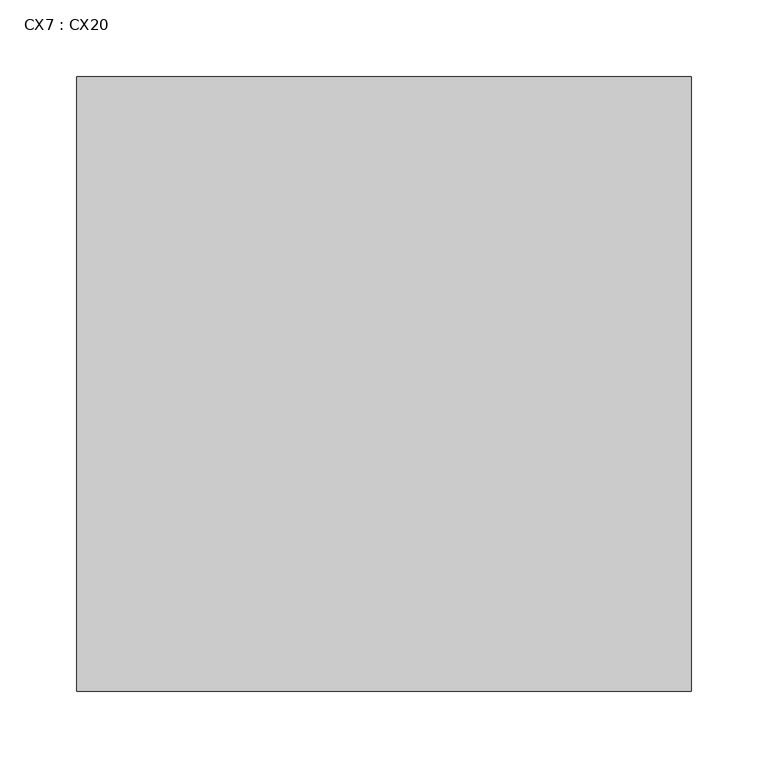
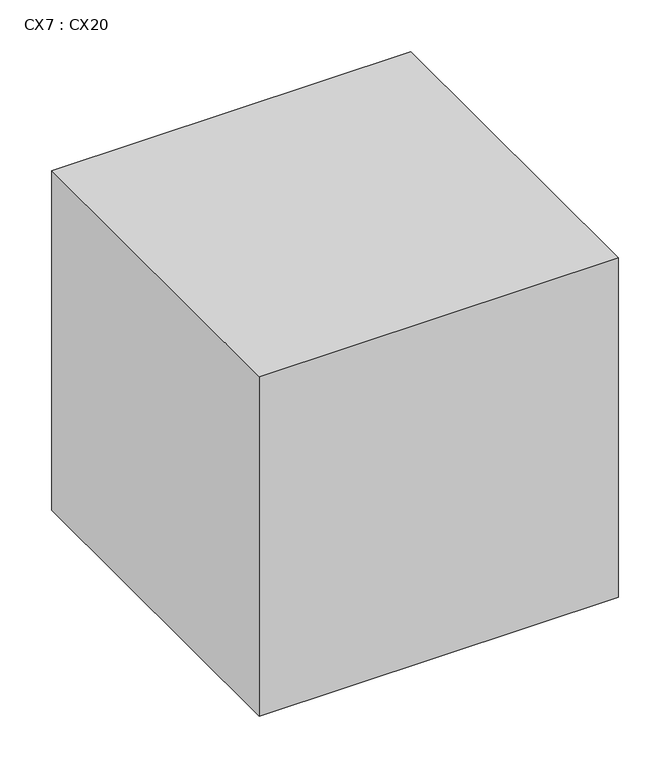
"""IFC4 building model written with IfcOpenShell, lengths in millimetres: proxy geometry, CX7 : CX20."""

from ifc_helpers import new_model, si_unit, frame, origin, place, context, project, spatial, polyline, outline, extrude, source, transform, mapped, element, save


def cx7_cx20_4f0da077(model_context):
    return source(origin(), model_context, "Body", "SweptSolid", [
        extrude(outline(polyline([(5238.5446511, 14155.0121745), (5238.5446511, 13755.0121745), (4838.5446511, 13755.0121745), (4838.5446511, 14155.0121745), (5238.5446511, 14155.0121745)])), frame((0.0, 0.0, 1130.0), z_axis=(0.0, 0.0, 1.0), x_axis=(1.0, 0.0, 0.0)), (0.0, 0.0, 1.0), 400.0),
    ])


if __name__ == "__main__":
    model = new_model("IFC4")
    model_context = context("Model", 3, world=origin())
    ifc_project = project(units=[si_unit("LENGTHUNIT", "METRE", prefix="MILLI")], contexts=[model_context])
    site = spatial("IfcSite", under=ifc_project)
    building = spatial("IfcBuilding", under=site)
    placement = place(None, origin())
    cx7_cx20_shape = cx7_cx20_4f0da077(model_context)
    element("IfcBuildingElementProxy", 1, Name="CX7 : CX20", ObjectType="CX7 : CX20", at=placement, inside=building, context=model_context, shape_type="MappedRepresentation", body=[
        mapped(cx7_cx20_shape, transform((0.0, 0.0, 0.0), x_axis=(1.0, 0.0, 0.0), y_axis=(0.0, 1.0, 0.0), z_axis=(0.0, 0.0, 1.0))),
    ])
    save(model, "model.ifc")
